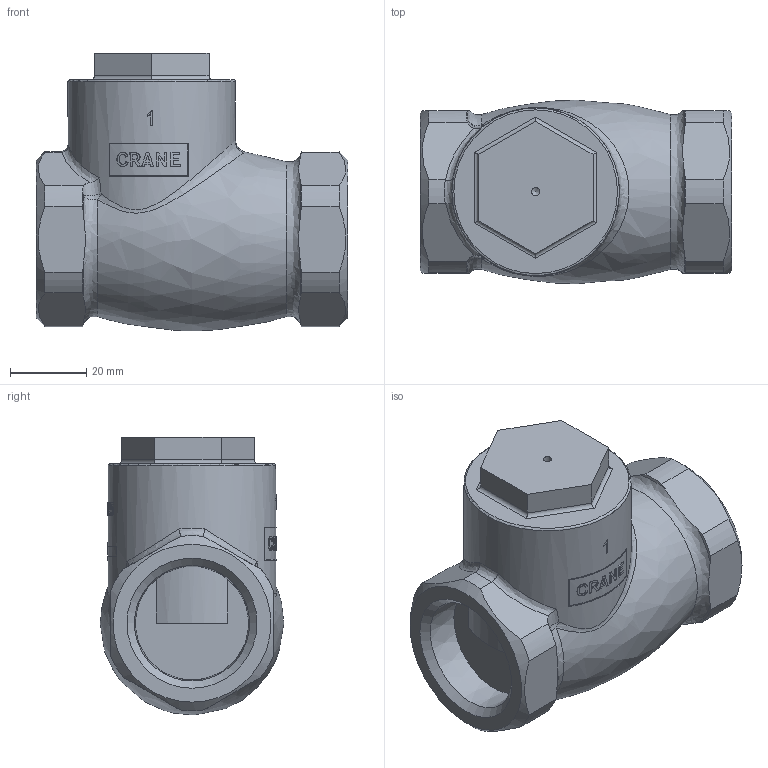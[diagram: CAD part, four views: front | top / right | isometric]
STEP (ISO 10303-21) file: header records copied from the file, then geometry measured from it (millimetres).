
FILE_DESCRIPTION((''),'2;1');
FILE_NAME('P:\Fastrack\53972_CRANE 3D\D142-138\Workspace\Check Valves\D138_1in\D138_1in.stp','2011-03-03T10:23:19',('btaylor'),(''),'Autodesk Inventor 2008','Autodesk Inventor 2008','');
FILE_SCHEMA(('AUTOMOTIVE_DESIGN { 1 0 10303 214 1 1 1 1 }'));
Length unit declared in the file: millimetre
Products named in the file (1): D138_1in
Bounding box: 81.5 x 48 x 72.7 mm (x, y, z)
Volume: 133549.3 mm3; surface area: 24810.2 mm2
Topology: 1 solids, 2 shells, 373 faces, 1041 edges, 691 vertices
Faces by surface type: bspline 203, plane 106, cylinder 45, cone 18, torus 1
Full cylindrical faces by diameter (mm): 43.8 x1
Entity records: 47405 total; most frequent: CARTESIAN_POINT 39072, ORIENTED_EDGE 2042, EDGE_CURVE 1021, DIRECTION 973, VERTEX_POINT 683, B_SPLINE_CURVE_WITH_KNOTS 490, EDGE_LOOP 404, STYLED_ITEM 374
